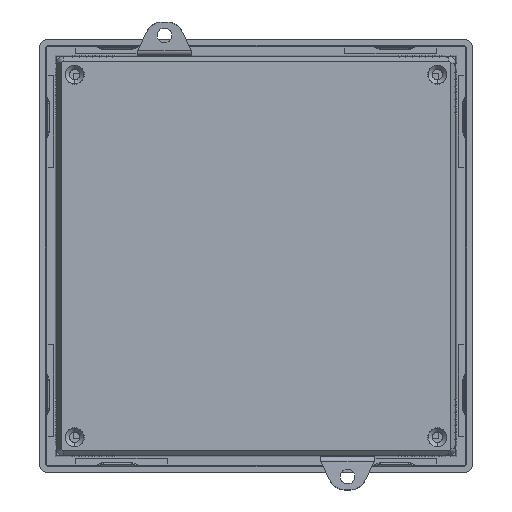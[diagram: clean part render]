
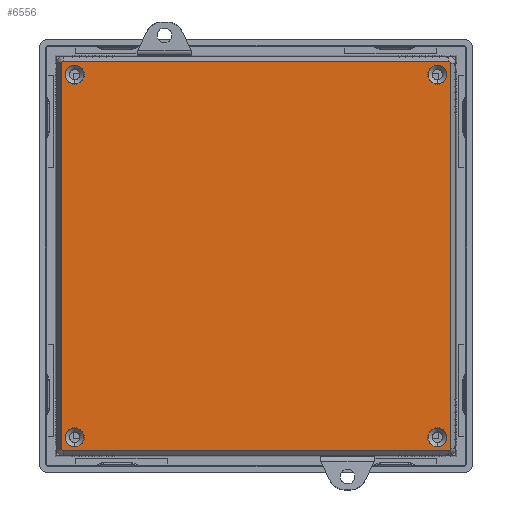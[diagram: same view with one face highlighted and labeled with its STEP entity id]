
A CAD part, front view. The second image highlights one B-rep face of the part: STEP entity #6556.
In plain terms, the highlighted planar face has unit normal (0, -1, 0).
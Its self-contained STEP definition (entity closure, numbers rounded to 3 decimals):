
#59 = CARTESIAN_POINT ( 'NONE',  ( -40.55, -2.3, -38.4 ) ) ;
#288 = EDGE_CURVE ( 'NONE', #14426, #17481, #8437, .T. ) ;
#384 = DIRECTION ( 'NONE',  ( 0., -1., 0. ) ) ;
#627 = EDGE_LOOP ( 'NONE', ( #13860, #19697 ) ) ;
#860 = LINE ( 'NONE', #2533, #14651 ) ;
#1067 = AXIS2_PLACEMENT_3D ( 'NONE', #19605, #4384, #1269 ) ;
#1177 = CARTESIAN_POINT ( 'NONE',  ( 43.1, -2.3, -43.527 ) ) ;
#1269 = DIRECTION ( 'NONE',  ( 0., 0., -1. ) ) ;
#1338 = CARTESIAN_POINT ( 'NONE',  ( -43.1, -2.3, 43.527 ) ) ;
#1422 = VERTEX_POINT ( 'NONE', #4472 ) ;
#1470 = DIRECTION ( 'NONE',  ( 0., -1., 0. ) ) ;
#1625 = DIRECTION ( 'NONE',  ( 0., 0., -1. ) ) ;
#1872 = CARTESIAN_POINT ( 'NONE',  ( 40.55, -2.3, -40.55 ) ) ;
#2038 = AXIS2_PLACEMENT_3D ( 'NONE', #4439, #2671, #18098 ) ;
#2089 = CARTESIAN_POINT ( 'NONE',  ( -40.55, -2.3, 38.4 ) ) ;
#2254 = DIRECTION ( 'NONE',  ( 0., 0., -1. ) ) ;
#2438 = VECTOR ( 'NONE', #15316, 1000. ) ;
#2533 = CARTESIAN_POINT ( 'NONE',  ( 43.1, -2.3, -43.527 ) ) ;
#2591 = DIRECTION ( 'NONE',  ( 0., 0., -1. ) ) ;
#2671 = DIRECTION ( 'NONE',  ( 0., -1., 0. ) ) ;
#2865 = AXIS2_PLACEMENT_3D ( 'NONE', #12262, #384, #20726 ) ;
#2917 = AXIS2_PLACEMENT_3D ( 'NONE', #6706, #12032, #18603 ) ;
#3131 = FACE_OUTER_BOUND ( 'NONE', #10645, .T. ) ;
#3211 = CIRCLE ( 'NONE', #3919, 2.15 ) ;
#3353 = FACE_BOUND ( 'NONE', #5534, .T. ) ;
#3375 = CARTESIAN_POINT ( 'NONE',  ( -43.527, -2.3, 43.1 ) ) ;
#3444 = ORIENTED_EDGE ( 'NONE', *, *, #21097, .F. ) ;
#3919 = AXIS2_PLACEMENT_3D ( 'NONE', #14154, #19161, #12599 ) ;
#4039 = AXIS2_PLACEMENT_3D ( 'NONE', #11016, #17803, #2591 ) ;
#4092 = CARTESIAN_POINT ( 'NONE',  ( 40.55, -2.3, 40.55 ) ) ;
#4139 = DIRECTION ( 'NONE',  ( 0., 1., 0. ) ) ;
#4384 = DIRECTION ( 'NONE',  ( 0., 1., 0. ) ) ;
#4431 = CARTESIAN_POINT ( 'NONE',  ( 43.527, -2.3, 43.1 ) ) ;
#4439 = CARTESIAN_POINT ( 'NONE',  ( -40.55, -2.3, 40.55 ) ) ;
#4472 = CARTESIAN_POINT ( 'NONE',  ( -40.55, -2.3, 42.7 ) ) ;
#4662 = EDGE_CURVE ( 'NONE', #7756, #15551, #860, .T. ) ;
#4725 = EDGE_CURVE ( 'NONE', #17363, #5992, #17141, .T. ) ;
#4784 = EDGE_CURVE ( 'NONE', #10890, #10721, #11731, .T. ) ;
#5124 = VERTEX_POINT ( 'NONE', #3375 ) ;
#5188 = EDGE_CURVE ( 'NONE', #8045, #10890, #21061, .T. ) ;
#5365 = DIRECTION ( 'NONE',  ( 0., 1., 0. ) ) ;
#5368 = EDGE_CURVE ( 'NONE', #5992, #17363, #21781, .T. ) ;
#5510 = EDGE_CURVE ( 'NONE', #7983, #5124, #18991, .T. ) ;
#5534 = EDGE_LOOP ( 'NONE', ( #13747, #17452 ) ) ;
#5607 = CIRCLE ( 'NONE', #15894, 2.15 ) ;
#5871 = EDGE_CURVE ( 'NONE', #11490, #15169, #7040, .T. ) ;
#5992 = VERTEX_POINT ( 'NONE', #7704 ) ;
#6376 = CIRCLE ( 'NONE', #1067, 0.427 ) ;
#6556 = ADVANCED_FACE ( 'NONE', ( #6571, #13553, #18567, #3353, #3131 ), #8012, .T. ) ;
#6571 = FACE_BOUND ( 'NONE', #11054, .T. ) ;
#6706 = CARTESIAN_POINT ( 'NONE',  ( -43.1, -2.3, -43.1 ) ) ;
#6868 = ORIENTED_EDGE ( 'NONE', *, *, #4784, .F. ) ;
#7011 = CARTESIAN_POINT ( 'NONE',  ( 43.1, -2.3, 43.1 ) ) ;
#7040 = CIRCLE ( 'NONE', #16641, 2.15 ) ;
#7291 = EDGE_CURVE ( 'NONE', #17481, #14426, #5607, .T. ) ;
#7627 = DIRECTION ( 'NONE',  ( -1., 0., 0. ) ) ;
#7704 = CARTESIAN_POINT ( 'NONE',  ( -40.55, -2.3, -42.7 ) ) ;
#7756 = VERTEX_POINT ( 'NONE', #1177 ) ;
#7983 = VERTEX_POINT ( 'NONE', #12001 ) ;
#8012 = PLANE ( 'NONE',  #8482 ) ;
#8045 = VERTEX_POINT ( 'NONE', #9969 ) ;
#8252 = EDGE_CURVE ( 'NONE', #1422, #14097, #11375, .T. ) ;
#8309 = EDGE_CURVE ( 'NONE', #15169, #11490, #3211, .T. ) ;
#8350 = ORIENTED_EDGE ( 'NONE', *, *, #19675, .F. ) ;
#8437 = CIRCLE ( 'NONE', #20856, 2.15 ) ;
#8482 = AXIS2_PLACEMENT_3D ( 'NONE', #16798, #9906, #13121 ) ;
#8992 = VECTOR ( 'NONE', #15433, 1000. ) ;
#9906 = DIRECTION ( 'NONE',  ( 0., -1., 0. ) ) ;
#9969 = CARTESIAN_POINT ( 'NONE',  ( 43.1, -2.3, 43.527 ) ) ;
#10097 = DIRECTION ( 'NONE',  ( 0., -1., 0. ) ) ;
#10485 = ORIENTED_EDGE ( 'NONE', *, *, #5510, .F. ) ;
#10497 = ORIENTED_EDGE ( 'NONE', *, *, #5188, .F. ) ;
#10547 = EDGE_LOOP ( 'NONE', ( #13538, #8350 ) ) ;
#10645 = EDGE_LOOP ( 'NONE', ( #16325, #10485, #18763, #17332, #11943, #6868, #10497, #3444 ) ) ;
#10721 = VERTEX_POINT ( 'NONE', #13857 ) ;
#10890 = VERTEX_POINT ( 'NONE', #4431 ) ;
#11016 = CARTESIAN_POINT ( 'NONE',  ( -40.55, -2.3, -40.55 ) ) ;
#11054 = EDGE_LOOP ( 'NONE', ( #11812, #11721 ) ) ;
#11375 = CIRCLE ( 'NONE', #2865, 2.15 ) ;
#11490 = VERTEX_POINT ( 'NONE', #19246 ) ;
#11594 = VERTEX_POINT ( 'NONE', #1338 ) ;
#11721 = ORIENTED_EDGE ( 'NONE', *, *, #5871, .F. ) ;
#11731 = LINE ( 'NONE', #11930, #18560 ) ;
#11812 = ORIENTED_EDGE ( 'NONE', *, *, #8309, .F. ) ;
#11875 = CARTESIAN_POINT ( 'NONE',  ( 43.1, -2.3, 43.527 ) ) ;
#11930 = CARTESIAN_POINT ( 'NONE',  ( 43.527, -2.3, 43.1 ) ) ;
#11943 = ORIENTED_EDGE ( 'NONE', *, *, #19091, .F. ) ;
#12001 = CARTESIAN_POINT ( 'NONE',  ( -43.527, -2.3, -43.1 ) ) ;
#12032 = DIRECTION ( 'NONE',  ( 0., 1., 0. ) ) ;
#12158 = AXIS2_PLACEMENT_3D ( 'NONE', #14954, #16618, #13491 ) ;
#12262 = CARTESIAN_POINT ( 'NONE',  ( -40.55, -2.3, 40.55 ) ) ;
#12599 = DIRECTION ( 'NONE',  ( 0., 0., 1. ) ) ;
#12811 = CARTESIAN_POINT ( 'NONE',  ( 40.55, -2.3, 38.4 ) ) ;
#13121 = DIRECTION ( 'NONE',  ( 0., 0., -1. ) ) ;
#13380 = CIRCLE ( 'NONE', #2038, 2.15 ) ;
#13491 = DIRECTION ( 'NONE',  ( 0., 0., -1. ) ) ;
#13538 = ORIENTED_EDGE ( 'NONE', *, *, #8252, .F. ) ;
#13553 = FACE_BOUND ( 'NONE', #627, .T. ) ;
#13747 = ORIENTED_EDGE ( 'NONE', *, *, #7291, .F. ) ;
#13784 = DIRECTION ( 'NONE',  ( 0., 0., -1. ) ) ;
#13857 = CARTESIAN_POINT ( 'NONE',  ( 43.527, -2.3, -43.1 ) ) ;
#13860 = ORIENTED_EDGE ( 'NONE', *, *, #5368, .F. ) ;
#14097 = VERTEX_POINT ( 'NONE', #2089 ) ;
#14154 = CARTESIAN_POINT ( 'NONE',  ( 40.55, -2.3, -40.55 ) ) ;
#14197 = CARTESIAN_POINT ( 'NONE',  ( -43.1, -2.3, -43.527 ) ) ;
#14426 = VERTEX_POINT ( 'NONE', #16305 ) ;
#14651 = VECTOR ( 'NONE', #7627, 1000. ) ;
#14861 = EDGE_CURVE ( 'NONE', #15551, #7983, #18504, .T. ) ;
#14898 = CARTESIAN_POINT ( 'NONE',  ( 40.55, -2.3, 40.55 ) ) ;
#14954 = CARTESIAN_POINT ( 'NONE',  ( -40.55, -2.3, -40.55 ) ) ;
#15169 = VERTEX_POINT ( 'NONE', #17820 ) ;
#15316 = DIRECTION ( 'NONE',  ( 1., 0., 0. ) ) ;
#15433 = DIRECTION ( 'NONE',  ( 0., 0., 1. ) ) ;
#15551 = VERTEX_POINT ( 'NONE', #14197 ) ;
#15894 = AXIS2_PLACEMENT_3D ( 'NONE', #4092, #19201, #20852 ) ;
#16305 = CARTESIAN_POINT ( 'NONE',  ( 40.55, -2.3, 42.7 ) ) ;
#16325 = ORIENTED_EDGE ( 'NONE', *, *, #16384, .F. ) ;
#16384 = EDGE_CURVE ( 'NONE', #5124, #11594, #6376, .T. ) ;
#16618 = DIRECTION ( 'NONE',  ( 0., -1., 0. ) ) ;
#16641 = AXIS2_PLACEMENT_3D ( 'NONE', #1872, #10097, #18741 ) ;
#16798 = CARTESIAN_POINT ( 'NONE',  ( -43.1, -2.3, 43.1 ) ) ;
#17141 = CIRCLE ( 'NONE', #12158, 2.15 ) ;
#17322 = CARTESIAN_POINT ( 'NONE',  ( -43.527, -2.3, 43.1 ) ) ;
#17332 = ORIENTED_EDGE ( 'NONE', *, *, #4662, .F. ) ;
#17363 = VERTEX_POINT ( 'NONE', #59 ) ;
#17367 = AXIS2_PLACEMENT_3D ( 'NONE', #19577, #4139, #2254 ) ;
#17452 = ORIENTED_EDGE ( 'NONE', *, *, #288, .F. ) ;
#17481 = VERTEX_POINT ( 'NONE', #12811 ) ;
#17803 = DIRECTION ( 'NONE',  ( 0., -1., 0. ) ) ;
#17820 = CARTESIAN_POINT ( 'NONE',  ( 40.55, -2.3, -38.4 ) ) ;
#18098 = DIRECTION ( 'NONE',  ( 0., 0., 1. ) ) ;
#18212 = AXIS2_PLACEMENT_3D ( 'NONE', #7011, #5365, #13784 ) ;
#18504 = CIRCLE ( 'NONE', #2917, 0.427 ) ;
#18560 = VECTOR ( 'NONE', #1625, 1000. ) ;
#18567 = FACE_BOUND ( 'NONE', #10547, .T. ) ;
#18603 = DIRECTION ( 'NONE',  ( 0., 0., -1. ) ) ;
#18741 = DIRECTION ( 'NONE',  ( 0., 0., 1. ) ) ;
#18756 = LINE ( 'NONE', #11875, #2438 ) ;
#18763 = ORIENTED_EDGE ( 'NONE', *, *, #14861, .F. ) ;
#18991 = LINE ( 'NONE', #17322, #8992 ) ;
#19091 = EDGE_CURVE ( 'NONE', #10721, #7756, #20549, .T. ) ;
#19161 = DIRECTION ( 'NONE',  ( 0., -1., 0. ) ) ;
#19201 = DIRECTION ( 'NONE',  ( 0., -1., 0. ) ) ;
#19246 = CARTESIAN_POINT ( 'NONE',  ( 40.55, -2.3, -42.7 ) ) ;
#19577 = CARTESIAN_POINT ( 'NONE',  ( 43.1, -2.3, -43.1 ) ) ;
#19605 = CARTESIAN_POINT ( 'NONE',  ( -43.1, -2.3, 43.1 ) ) ;
#19675 = EDGE_CURVE ( 'NONE', #14097, #1422, #13380, .T. ) ;
#19697 = ORIENTED_EDGE ( 'NONE', *, *, #4725, .F. ) ;
#20237 = DIRECTION ( 'NONE',  ( 0., 0., -1. ) ) ;
#20549 = CIRCLE ( 'NONE', #17367, 0.427 ) ;
#20726 = DIRECTION ( 'NONE',  ( 0., 0., 1. ) ) ;
#20852 = DIRECTION ( 'NONE',  ( 0., 0., -1. ) ) ;
#20856 = AXIS2_PLACEMENT_3D ( 'NONE', #14898, #1470, #20237 ) ;
#21061 = CIRCLE ( 'NONE', #18212, 0.427 ) ;
#21097 = EDGE_CURVE ( 'NONE', #11594, #8045, #18756, .T. ) ;
#21781 = CIRCLE ( 'NONE', #4039, 2.15 ) ;
